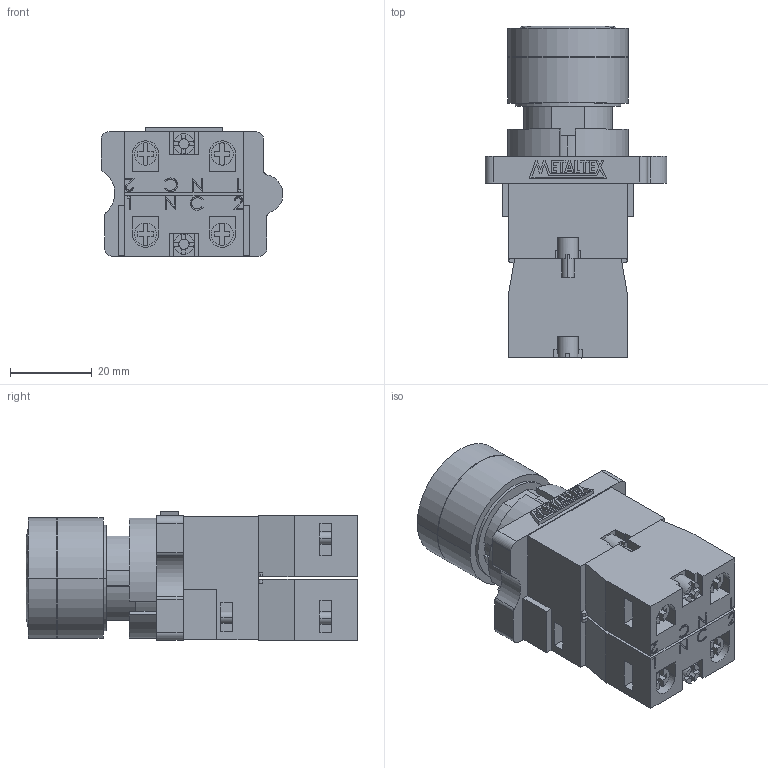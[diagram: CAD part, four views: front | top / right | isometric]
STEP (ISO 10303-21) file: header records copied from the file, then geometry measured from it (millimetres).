
FILE_DESCRIPTION (( 'STEP AP203' ), '1' );
FILE_NAME ('P20IGR-G-1C.STEP', '2018-01-17T13:59:22', ( '' ), ( '' ), 'SwSTEP 2.0', 'SolidWorks 2012', '' );
FILE_SCHEMA (( 'CONFIG_CONTROL_DESIGN' ));
Length unit declared in the file: millimetre
Products named in the file (5): P20IGR; M20-1B; M20-IL; METALTEX 18,98; P20IGR-G-1C
Assembly tree (5 placements, depth 2):
  P20IGR-G-1C
    P20IGR
    M20-1B  x2
    M20-IL
    METALTEX 18,98
Bounding box: 44.44 x 81.07 x 31.5 mm (x, y, z)
Volume: 61550.3 mm3; surface area: 22739.3 mm2
Topology: 11 solids, 11 shells, 671 faces, 1750 edges, 1157 vertices
Faces by surface type: plane 480, cylinder 143, bspline 32, torus 16
Entity records: 16906 total; most frequent: CARTESIAN_POINT 3763, ORIENTED_EDGE 2610, DIRECTION 2597, EDGE_CURVE 1305, LINE 943, VECTOR 943, VERTEX_POINT 863, AXIS2_PLACEMENT_3D 827
